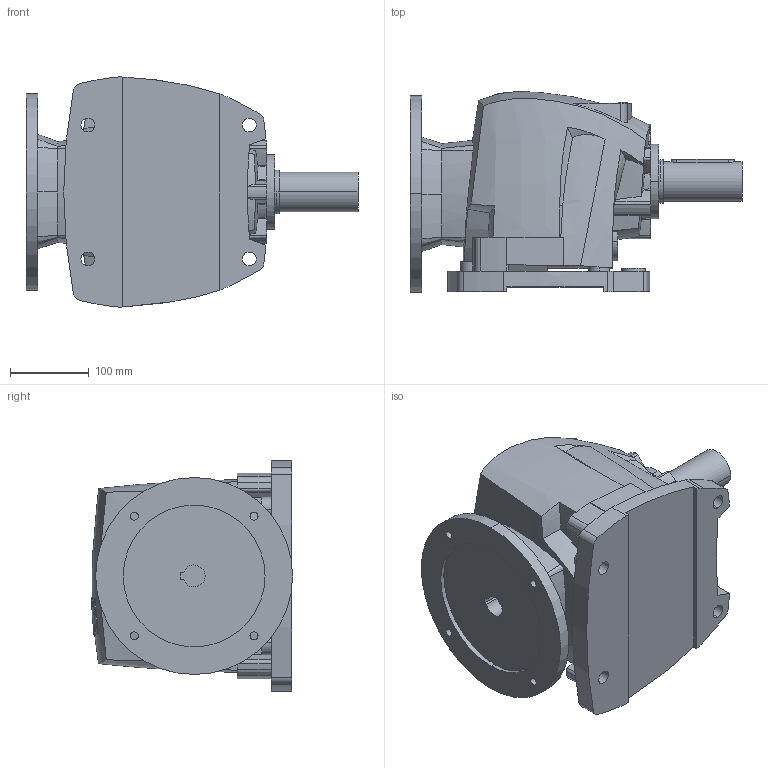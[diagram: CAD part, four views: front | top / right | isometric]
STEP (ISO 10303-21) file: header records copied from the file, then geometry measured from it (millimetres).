
FILE_DESCRIPTION((''),'2;1');
FILE_NAME('R40_SW_PAM100112_D2','2013-11-28T',('Luca'),(''),'PRO/ENGINEER BY PARAMETRIC TECHNOLOGY CORPORATION, 2008230','PRO/ENGINEER BY PARAMETRIC TECHNOLOGY CORPORATION, 2008230','');
FILE_SCHEMA(('CONFIG_CONTROL_DESIGN'));
Length unit declared in the file: millimetre
Products named in the file (1): R40_SW_PAM100112_D2
Bounding box: 421.5 x 255.36 x 292.31 mm (x, y, z)
Volume: 12722635.9 mm3; surface area: 551472.3 mm2
Topology: 1 solids, 5 shells, 465 faces, 1295 edges, 870 vertices
Faces by surface type: cylinder 164, plane 148, bspline 86, extrusion 39, cone 20, torus 8
Entity records: 19906 total; most frequent: CARTESIAN_POINT 8815, ORIENTED_EDGE 2586, DIRECTION 1807, EDGE_CURVE 1293, VERTEX_POINT 870, AXIS2_PLACEMENT_3D 612, VECTOR 583, LINE 544
